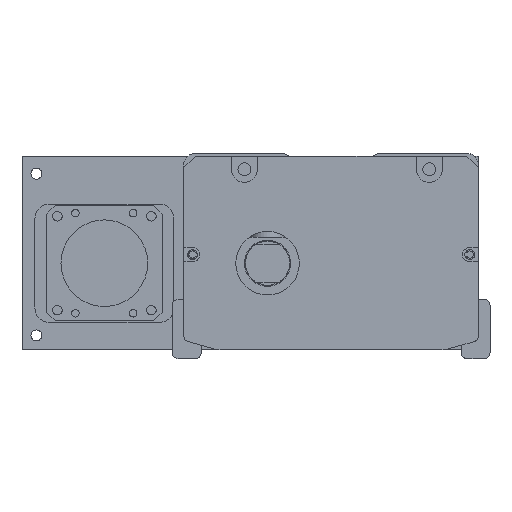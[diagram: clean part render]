
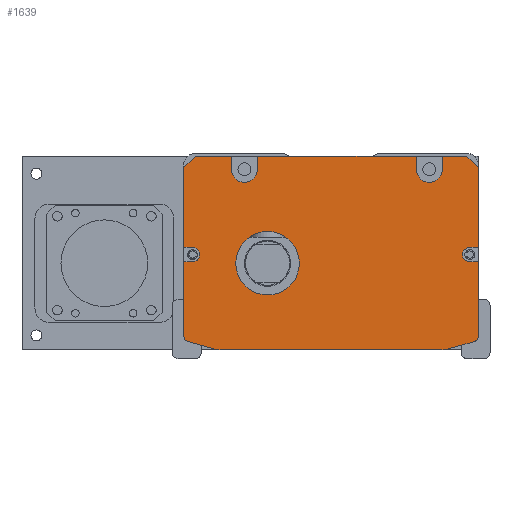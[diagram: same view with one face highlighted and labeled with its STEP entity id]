
A CAD part, front view. The second image highlights one B-rep face of the part: STEP entity #1639.
In plain terms, the highlighted planar face has unit normal (0, -1, 0).
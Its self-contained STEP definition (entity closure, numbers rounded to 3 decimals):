
#489=FACE_BOUND('',#3364,.T.);
#490=FACE_BOUND('',#3365,.T.);
#1639=ADVANCED_FACE('',(#489,#490),#2302,.F.);
#2302=PLANE('',#13443);
#3364=EDGE_LOOP('',(#5910,#5911,#5912,#5913,#5914,#5915,#5916,#5917,#5918,
#5919,#5920,#5921,#5922,#5923,#5924,#5925,#5926,#5927,#5928,#5929,#5930,
#5931,#5932,#5933,#5934,#5935,#5936,#5937));
#3365=EDGE_LOOP('',(#5938));
#4370=CIRCLE('',#13434,4.5);
#4371=CIRCLE('',#13435,4.5);
#4372=CIRCLE('',#13436,2.5);
#4373=CIRCLE('',#13437,2.);
#4374=CIRCLE('',#13438,10.);
#4375=CIRCLE('',#13439,10.);
#4376=CIRCLE('',#13440,2.);
#4377=CIRCLE('',#13441,2.5);
#4378=CIRCLE('',#13442,11.);
#5910=ORIENTED_EDGE('',*,*,#9705,.T.);
#5911=ORIENTED_EDGE('',*,*,#10226,.T.);
#5912=ORIENTED_EDGE('',*,*,#10227,.T.);
#5913=ORIENTED_EDGE('',*,*,#10228,.F.);
#5914=ORIENTED_EDGE('',*,*,#10229,.T.);
#5915=ORIENTED_EDGE('',*,*,#10230,.F.);
#5916=ORIENTED_EDGE('',*,*,#10231,.T.);
#5917=ORIENTED_EDGE('',*,*,#10232,.F.);
#5918=ORIENTED_EDGE('',*,*,#10233,.T.);
#5919=ORIENTED_EDGE('',*,*,#10234,.F.);
#5920=ORIENTED_EDGE('',*,*,#10235,.T.);
#5921=ORIENTED_EDGE('',*,*,#10236,.T.);
#5922=ORIENTED_EDGE('',*,*,#9723,.T.);
#5923=ORIENTED_EDGE('',*,*,#10237,.T.);
#5924=ORIENTED_EDGE('',*,*,#10238,.T.);
#5925=ORIENTED_EDGE('',*,*,#10239,.T.);
#5926=ORIENTED_EDGE('',*,*,#9719,.T.);
#5927=ORIENTED_EDGE('',*,*,#10240,.T.);
#5928=ORIENTED_EDGE('',*,*,#10241,.T.);
#5929=ORIENTED_EDGE('',*,*,#10242,.T.);
#5930=ORIENTED_EDGE('',*,*,#10243,.T.);
#5931=ORIENTED_EDGE('',*,*,#10244,.T.);
#5932=ORIENTED_EDGE('',*,*,#10245,.T.);
#5933=ORIENTED_EDGE('',*,*,#10246,.T.);
#5934=ORIENTED_EDGE('',*,*,#9709,.T.);
#5935=ORIENTED_EDGE('',*,*,#10247,.T.);
#5936=ORIENTED_EDGE('',*,*,#10248,.T.);
#5937=ORIENTED_EDGE('',*,*,#10249,.T.);
#5938=ORIENTED_EDGE('',*,*,#10250,.T.);
#8459=VERTEX_POINT('',#18513);
#8460=VERTEX_POINT('',#18515);
#8463=VERTEX_POINT('',#18521);
#8464=VERTEX_POINT('',#18523);
#8473=VERTEX_POINT('',#18542);
#8474=VERTEX_POINT('',#18544);
#8477=VERTEX_POINT('',#18550);
#8478=VERTEX_POINT('',#18552);
#8830=VERTEX_POINT('',#19619);
#8831=VERTEX_POINT('',#19621);
#8832=VERTEX_POINT('',#19623);
#8833=VERTEX_POINT('',#19625);
#8834=VERTEX_POINT('',#19627);
#8835=VERTEX_POINT('',#19629);
#8836=VERTEX_POINT('',#19631);
#8837=VERTEX_POINT('',#19633);
#8838=VERTEX_POINT('',#19635);
#8839=VERTEX_POINT('',#19637);
#8840=VERTEX_POINT('',#19640);
#8841=VERTEX_POINT('',#19642);
#8842=VERTEX_POINT('',#19645);
#8843=VERTEX_POINT('',#19647);
#8844=VERTEX_POINT('',#19649);
#8845=VERTEX_POINT('',#19651);
#8846=VERTEX_POINT('',#19653);
#8847=VERTEX_POINT('',#19655);
#8848=VERTEX_POINT('',#19658);
#8849=VERTEX_POINT('',#19660);
#8850=VERTEX_POINT('',#19663);
#9705=EDGE_CURVE('',#8460,#8459,#11417,.T.);
#9709=EDGE_CURVE('',#8464,#8463,#11421,.T.);
#9719=EDGE_CURVE('',#8474,#8473,#11431,.T.);
#9723=EDGE_CURVE('',#8478,#8477,#11435,.T.);
#10226=EDGE_CURVE('',#8459,#8830,#11715,.T.);
#10227=EDGE_CURVE('',#8830,#8831,#11716,.T.);
#10228=EDGE_CURVE('',#8832,#8831,#11717,.T.);
#10229=EDGE_CURVE('',#8832,#8833,#4370,.T.);
#10230=EDGE_CURVE('',#8834,#8833,#11718,.T.);
#10231=EDGE_CURVE('',#8834,#8835,#11719,.T.);
#10232=EDGE_CURVE('',#8836,#8835,#11720,.T.);
#10233=EDGE_CURVE('',#8836,#8837,#4371,.T.);
#10234=EDGE_CURVE('',#8838,#8837,#11721,.T.);
#10235=EDGE_CURVE('',#8838,#8839,#11722,.T.);
#10236=EDGE_CURVE('',#8839,#8478,#11723,.T.);
#10237=EDGE_CURVE('',#8477,#8840,#11724,.T.);
#10238=EDGE_CURVE('',#8840,#8841,#4372,.T.);
#10239=EDGE_CURVE('',#8841,#8474,#11725,.T.);
#10240=EDGE_CURVE('',#8473,#8842,#4373,.T.);
#10241=EDGE_CURVE('',#8842,#8843,#11726,.T.);
#10242=EDGE_CURVE('',#8843,#8844,#4374,.T.);
#10243=EDGE_CURVE('',#8844,#8845,#11727,.T.);
#10244=EDGE_CURVE('',#8845,#8846,#4375,.T.);
#10245=EDGE_CURVE('',#8846,#8847,#11728,.T.);
#10246=EDGE_CURVE('',#8847,#8464,#4376,.T.);
#10247=EDGE_CURVE('',#8463,#8848,#11729,.T.);
#10248=EDGE_CURVE('',#8848,#8849,#4377,.T.);
#10249=EDGE_CURVE('',#8849,#8460,#11730,.T.);
#10250=EDGE_CURVE('',#8850,#8850,#4378,.T.);
#11417=LINE('',#18514,#12216);
#11421=LINE('',#18522,#12220);
#11431=LINE('',#18543,#12230);
#11435=LINE('',#18551,#12234);
#11715=LINE('',#19618,#12514);
#11716=LINE('',#19620,#12515);
#11717=LINE('',#19622,#12516);
#11718=LINE('',#19626,#12517);
#11719=LINE('',#19628,#12518);
#11720=LINE('',#19630,#12519);
#11721=LINE('',#19634,#12520);
#11722=LINE('',#19636,#12521);
#11723=LINE('',#19638,#12522);
#11724=LINE('',#19639,#12523);
#11725=LINE('',#19643,#12524);
#11726=LINE('',#19646,#12525);
#11727=LINE('',#19650,#12526);
#11728=LINE('',#19654,#12527);
#11729=LINE('',#19657,#12528);
#11730=LINE('',#19661,#12529);
#12216=VECTOR('',#14588,1.);
#12220=VECTOR('',#14592,1.);
#12230=VECTOR('',#14604,1.);
#12234=VECTOR('',#14608,1.);
#12514=VECTOR('',#15758,1.);
#12515=VECTOR('',#15759,1.);
#12516=VECTOR('',#15760,1.);
#12517=VECTOR('',#15763,1.);
#12518=VECTOR('',#15764,1.);
#12519=VECTOR('',#15765,1.);
#12520=VECTOR('',#15768,1.);
#12521=VECTOR('',#15769,1.);
#12522=VECTOR('',#15770,1.);
#12523=VECTOR('',#15771,1.);
#12524=VECTOR('',#15774,1.);
#12525=VECTOR('',#15777,1.);
#12526=VECTOR('',#15780,1.);
#12527=VECTOR('',#15783,1.);
#12528=VECTOR('',#15786,1.);
#12529=VECTOR('',#15789,1.);
#13434=AXIS2_PLACEMENT_3D('',#19624,#15761,#15762);
#13435=AXIS2_PLACEMENT_3D('',#19632,#15766,#15767);
#13436=AXIS2_PLACEMENT_3D('',#19641,#15772,#15773);
#13437=AXIS2_PLACEMENT_3D('',#19644,#15775,#15776);
#13438=AXIS2_PLACEMENT_3D('',#19648,#15778,#15779);
#13439=AXIS2_PLACEMENT_3D('',#19652,#15781,#15782);
#13440=AXIS2_PLACEMENT_3D('',#19656,#15784,#15785);
#13441=AXIS2_PLACEMENT_3D('',#19659,#15787,#15788);
#13442=AXIS2_PLACEMENT_3D('',#19662,#15790,#15791);
#13443=AXIS2_PLACEMENT_3D('',#19664,#15792,#15793);
#14588=DIRECTION('',(0.,0.,1.));
#14592=DIRECTION('',(0.,0.,1.));
#14604=DIRECTION('',(0.,0.,-1.));
#14608=DIRECTION('',(0.,0.,-1.));
#15758=DIRECTION('',(-0.707,0.,0.707));
#15759=DIRECTION('',(-1.,0.,0.));
#15760=DIRECTION('',(0.,0.,1.));
#15761=DIRECTION('',(0.,1.,0.));
#15762=DIRECTION('',(0.,0.,1.));
#15763=DIRECTION('',(0.,0.,-1.));
#15764=DIRECTION('',(-1.,0.,0.));
#15765=DIRECTION('',(0.,0.,1.));
#15766=DIRECTION('',(0.,1.,0.));
#15767=DIRECTION('',(0.,0.,1.));
#15768=DIRECTION('',(0.,0.,-1.));
#15769=DIRECTION('',(-1.,0.,0.));
#15770=DIRECTION('',(-0.707,0.,-0.707));
#15771=DIRECTION('',(1.,0.,0.));
#15772=DIRECTION('',(0.,1.,0.));
#15773=DIRECTION('',(0.,0.,1.));
#15774=DIRECTION('',(-1.,0.,0.));
#15775=DIRECTION('',(0.,-1.,0.));
#15776=DIRECTION('',(0.,0.,1.));
#15777=DIRECTION('',(0.963,0.,-0.269));
#15778=DIRECTION('',(0.,-1.,0.));
#15779=DIRECTION('',(0.,0.,1.));
#15780=DIRECTION('',(1.,0.,0.));
#15781=DIRECTION('',(0.,-1.,0.));
#15782=DIRECTION('',(0.,0.,-1.));
#15783=DIRECTION('',(0.963,0.,0.269));
#15784=DIRECTION('',(0.,-1.,0.));
#15785=DIRECTION('',(0.,0.,-1.));
#15786=DIRECTION('',(-1.,0.,0.));
#15787=DIRECTION('',(0.,1.,0.));
#15788=DIRECTION('',(0.,0.,1.));
#15789=DIRECTION('',(1.,0.,0.));
#15790=DIRECTION('',(0.,1.,0.));
#15791=DIRECTION('',(0.,0.,1.));
#15792=DIRECTION('',(0.,1.,0.));
#15793=DIRECTION('',(1.,0.,0.));
#18513=CARTESIAN_POINT('',(47.808,32.5,-5.));
#18514=CARTESIAN_POINT('',(47.808,32.5,-1.));
#18515=CARTESIAN_POINT('',(47.808,32.5,-32.5));
#18521=CARTESIAN_POINT('',(47.808,32.5,-37.5));
#18522=CARTESIAN_POINT('',(47.808,32.5,-1.));
#18523=CARTESIAN_POINT('',(47.808,32.5,-63.212));
#18542=CARTESIAN_POINT('',(-54.192,32.5,-63.212));
#18543=CARTESIAN_POINT('',(-54.192,32.5,-62.));
#18544=CARTESIAN_POINT('',(-54.192,32.5,-37.5));
#18550=CARTESIAN_POINT('',(-54.192,32.5,-32.5));
#18551=CARTESIAN_POINT('',(-54.192,32.5,-62.));
#18552=CARTESIAN_POINT('',(-54.192,32.5,-5.));
#19618=CARTESIAN_POINT('',(43.808,32.5,-1.));
#19619=CARTESIAN_POINT('',(43.808,32.5,-1.));
#19620=CARTESIAN_POINT('',(-3.192,32.5,-1.));
#19621=CARTESIAN_POINT('',(35.308,32.5,-1.));
#19622=CARTESIAN_POINT('',(35.308,32.5,-1.));
#19623=CARTESIAN_POINT('',(35.308,32.5,-5.5));
#19624=CARTESIAN_POINT('',(30.808,32.5,-5.5));
#19625=CARTESIAN_POINT('',(26.308,32.5,-5.5));
#19626=CARTESIAN_POINT('',(26.308,32.5,-1.));
#19627=CARTESIAN_POINT('',(26.308,32.5,-1.));
#19628=CARTESIAN_POINT('',(-54.192,32.5,-1.));
#19629=CARTESIAN_POINT('',(-28.692,32.5,-1.));
#19630=CARTESIAN_POINT('',(-28.692,32.5,-3.5));
#19631=CARTESIAN_POINT('',(-28.692,32.5,-5.5));
#19632=CARTESIAN_POINT('',(-33.192,32.5,-5.5));
#19633=CARTESIAN_POINT('',(-37.692,32.5,-5.5));
#19634=CARTESIAN_POINT('',(-37.692,32.5,-1.));
#19635=CARTESIAN_POINT('',(-37.692,32.5,-1.));
#19636=CARTESIAN_POINT('',(-54.192,32.5,-1.));
#19637=CARTESIAN_POINT('',(-50.192,32.5,-1.));
#19638=CARTESIAN_POINT('',(-54.192,32.5,-5.));
#19639=CARTESIAN_POINT('',(-3.192,32.5,-32.5));
#19640=CARTESIAN_POINT('',(-51.192,32.5,-32.5));
#19641=CARTESIAN_POINT('',(-51.192,32.5,-35.));
#19642=CARTESIAN_POINT('',(-51.192,32.5,-37.5));
#19643=CARTESIAN_POINT('',(-3.192,32.5,-37.5));
#19644=CARTESIAN_POINT('',(-52.192,32.5,-63.212));
#19645=CARTESIAN_POINT('',(-52.731,32.5,-65.138));
#19646=CARTESIAN_POINT('',(-55.807,32.5,-64.279));
#19647=CARTESIAN_POINT('',(-43.809,32.5,-67.631));
#19648=CARTESIAN_POINT('',(-41.118,32.5,-58.));
#19649=CARTESIAN_POINT('',(-41.118,32.5,-68.));
#19650=CARTESIAN_POINT('',(-54.692,32.5,-68.));
#19651=CARTESIAN_POINT('',(34.733,32.5,-68.));
#19652=CARTESIAN_POINT('',(34.733,32.5,-58.));
#19653=CARTESIAN_POINT('',(37.424,32.5,-67.631));
#19654=CARTESIAN_POINT('',(49.422,32.5,-64.279));
#19655=CARTESIAN_POINT('',(46.346,32.5,-65.138));
#19656=CARTESIAN_POINT('',(45.808,32.5,-63.212));
#19657=CARTESIAN_POINT('',(-3.192,32.5,-37.5));
#19658=CARTESIAN_POINT('',(44.808,32.5,-37.5));
#19659=CARTESIAN_POINT('',(44.808,32.5,-35.));
#19660=CARTESIAN_POINT('',(44.808,32.5,-32.5));
#19661=CARTESIAN_POINT('',(-3.192,32.5,-32.5));
#19662=CARTESIAN_POINT('',(-25.192,32.5,-38.));
#19663=CARTESIAN_POINT('',(-25.192,32.5,-27.));
#19664=CARTESIAN_POINT('',(-3.192,32.5,-1.));
